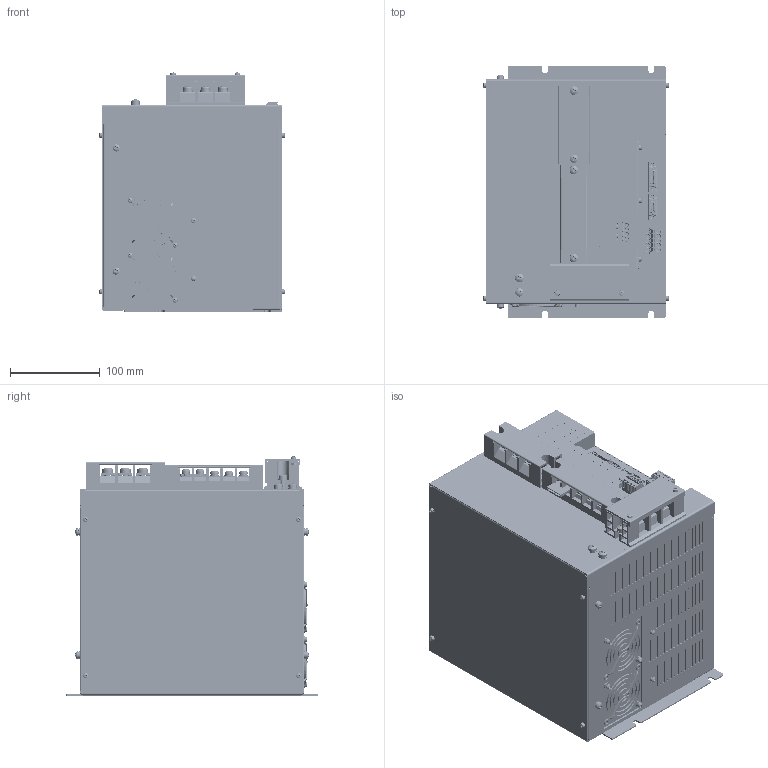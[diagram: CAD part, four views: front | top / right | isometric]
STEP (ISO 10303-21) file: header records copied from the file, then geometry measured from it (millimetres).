
FILE_DESCRIPTION (( 'STEP AP203' ), '1' );
FILE_NAME ('NCR-HC2_153#SE-94810.STEP', '2021-07-13T06:29:18', ( '' ), ( '' ), 'SwSTEP 2.0', 'SolidWorks 2018', '' );
FILE_SCHEMA (( 'CONFIG_CONTROL_DESIGN' ));
Products named in the file (1): NCR-HC2_153#SE-94810
Bounding box: 207.11 x 280 x 265.98 mm (x, y, z)
Volume: 11531291.1 mm3; surface area: 476344.7 mm2
Topology: 6 solids, 93 shells, 13167 faces, 34707 edges, 22466 vertices
Faces by surface type: plane 7698, cylinder 2584, bspline 1736, cone 723, torus 310, sphere 116
Entity records: 466906 total; most frequent: CARTESIAN_POINT 151880, ORIENTED_EDGE 69222, DIRECTION 59041, EDGE_CURVE 34611, VERTEX_POINT 22466, VECTOR 21173, LINE 21173, AXIS2_PLACEMENT_3D 18934
